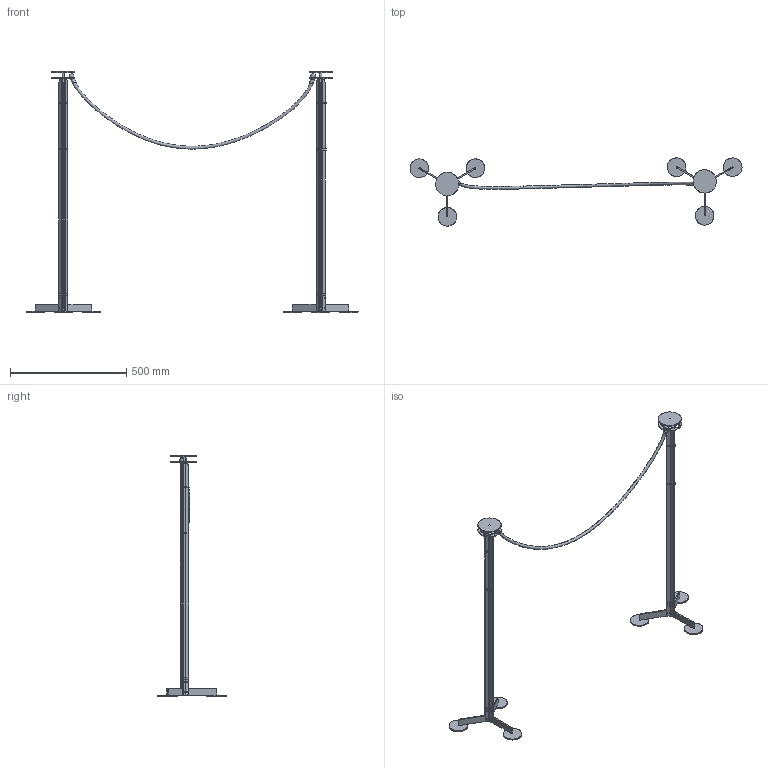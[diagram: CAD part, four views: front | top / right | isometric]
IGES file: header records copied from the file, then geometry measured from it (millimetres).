
Global section: file name: C:\Users\colombo_c\Desktop\Danese\Sito\3D mancanti\Familia transenna\Familia transenna.igs; native system: Rhinoceros ( Apr 16 2024 ); preprocessor: Trout Lake IGES 012 Apr 16 2024; date: 250714.133957; units: millimetre
Bounding box: 1429.92 x 293.65 x 1038.52 mm (x, y, z)
Surface area: 672333.6 mm2 (no closed solid volume)
Topology: 0 solids, 0 shells, 845 faces, 5080 edges, 5078 vertices
Faces by surface type: bspline 845
